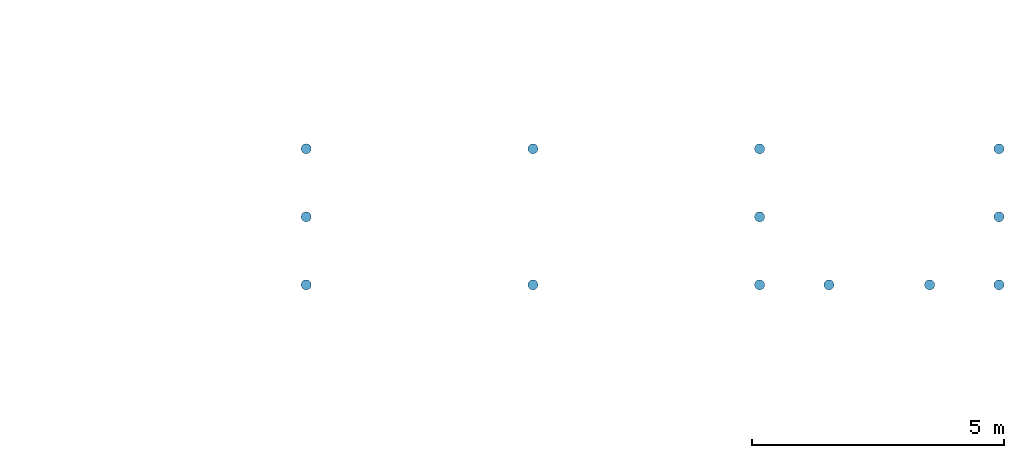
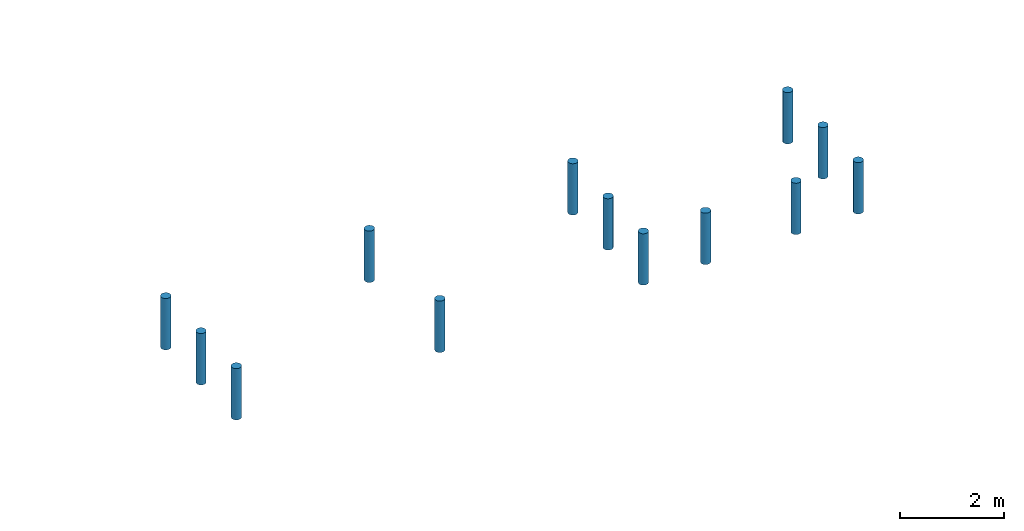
# One storey, part 1 of 16: 13 columns.
"""IFC2X3 building model written with IfcOpenShell, lengths in millimetres."""

from ifc_helpers import new_model, entity, si_unit, converted_unit, derived_unit, money_unit, direction, frame, origin_with_axes, origin_2d_with_axis, place, context, subcontext, project, spatial, circle, extrude, material, type_object, element, save


model = new_model("IFC2X3")

# Units and contexts
model_context = context("Model", 3, precision=0.01, world=origin_with_axes(), true_north=direction((0.0, 1.0)))
body_context = subcontext(model_context, "Body", "Model", "MODEL_VIEW")
ifc_project = project(units=[si_unit("LENGTHUNIT", "METRE", prefix="MILLI"), si_unit("AREAUNIT", "SQUARE_METRE"), si_unit("VOLUMEUNIT", "CUBIC_METRE"), converted_unit("PLANEANGLEUNIT", "DEGREE", entity("IfcPlaneAngleMeasure", 0.0174532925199), si_unit("PLANEANGLEUNIT", "RADIAN"), dimensions=[0, 0, 0, 0, 0, 0, 0]), si_unit("SOLIDANGLEUNIT", "STERADIAN"), money_unit("EUR"), converted_unit("TIMEUNIT", "Year", entity("IfcTimeMeasure", 31556926.0), si_unit("TIMEUNIT", "SECOND"), dimensions=[0, 0, 1, 0, 0, 0, 0]), si_unit("MASSUNIT", "GRAM", prefix="KILO"), si_unit("THERMODYNAMICTEMPERATUREUNIT", "DEGREE_CELSIUS"), si_unit("LUMINOUSINTENSITYUNIT", "LUMEN"), si_unit("ENERGYUNIT", "JOULE", prefix="MEGA"), derived_unit("THERMALCONDUCTANCEUNIT", [(si_unit("POWERUNIT", "WATT"), 1), (si_unit("LENGTHUNIT", "METRE"), -1), (si_unit("THERMODYNAMICTEMPERATUREUNIT", "KELVIN"), -1)]), derived_unit("SPECIFICHEATCAPACITYUNIT", [(si_unit("ENERGYUNIT", "JOULE"), 1), (si_unit("MASSUNIT", "GRAM", prefix="KILO"), -1), (si_unit("THERMODYNAMICTEMPERATUREUNIT", "KELVIN"), -1)]), derived_unit("MASSDENSITYUNIT", [(si_unit("MASSUNIT", "GRAM", prefix="KILO"), 1), (si_unit("VOLUMEUNIT", "CUBIC_METRE"), -1)])], contexts=[model_context])

# Site, building, storey
site_placement = place(None, origin_with_axes())
site = spatial("IfcSite", under=ifc_project, at=site_placement, Name="Paldiski mnt 245/1, Tallinn, Harjumaa", CompositionType="COMPLEX")
building_placement = place(site_placement, origin_with_axes())
building = spatial("IfcBuilding", under=site, at=building_placement, Name="RKAS Hoone üldnimetus (kasutust iseloomustav) -> IFC Project Manager -> SOLIBRI", CompositionType="ELEMENT")
storey_placement = place(building_placement, frame((0.0, 0.0, -1200.0), z_axis=(0.0, 0.0, 1.0), x_axis=(1.0, 0.0, 0.0)))
storey = spatial("IfcBuildingStorey", under=building, at=storey_placement, Name="Vundament", CompositionType="ELEMENT", Elevation=-1200.0)

# Columns
ifc_material = material(Name="ET-02_Raudbetoon - Toode")
column_type = type_object("IfcColumnType", Name="ET-02_Raudbetoon - Toode D200", PredefinedType="COLUMN")
for number, where, z_axis, x_axis in (
    (1, (-16474.2718012, 11244.7949578, -1060.0), (0.0, 0.0, 1.0), (1.0, 0.0, 0.0)),
    (2, (-11974.2718012, 11244.7949578, -1060.0), (0.0, 0.0, 1.0), (1.0, 0.0, 0.0)),
    (3, (-10599.2718012, 11244.7949578, -1060.0), (0.0, 0.0, 1.0), (1.0, 0.0, 0.0)),
    (4, (-7224.27180125, 13944.7949578, -1060.0), (0.0, 0.0, 1.0), (1.0, 0.0, 0.0)),
    (5, (-8599.27180125, 11244.7949578, -1060.0), (0.0, 0.0, 1.0), (1.0, 0.0, 0.0)),
    (6, (-7224.27180125, 12594.7949578, -1060.0), (0.0, 0.0, 1.0), (1.0, 0.0, 0.0)),
    (7, (-16474.2718012, 13944.7949578, -1060.0), (0.0, 0.0, 1.0), (1.0, 0.0, 0.0)),
    (8, (-7224.27180125, 11244.7949578, -1060.0), (0.0, 0.0, 1.0), (1.0, 0.0, 0.0)),
    (9, (-20974.2718012, 11244.7949578, -1060.0), (0.0, 0.0, 1.0), (1.0, 0.0, 0.0)),
    (10, (-20974.2718012, 12594.7949578, -1060.0), (0.0, 0.0, 1.0), (1.0, 0.0, 0.0)),
    (11, (-11974.2718012, 12594.7949578, -1060.0), (0.0, 0.0, 1.0), (1.0, 0.0, 0.0)),
    (12, (-20974.2718012, 13944.7949578, -1060.0), (0.0, 0.0, 1.0), (1.0, 0.0, 0.0)),
    (13, (-11974.2718012, 13944.7949578, -1060.0), (0.0, 0.0, 1.0), (1.0, 0.0, 0.0)),
):
    element("IfcColumn", number, at=place(storey_placement, frame(where, z_axis=z_axis, x_axis=x_axis)), inside=storey, type_object=column_type, material=ifc_material, Name="R/b postvundament", ObjectType="COLUMN", context=body_context, shape_type="SweptSolid", body=[
        extrude(circle(Radius=100.0, at=origin_2d_with_axis()), origin_with_axes(), (0.0, 0.0, 1.0), 1200.0),
    ])

save(model, "model.ifc")
